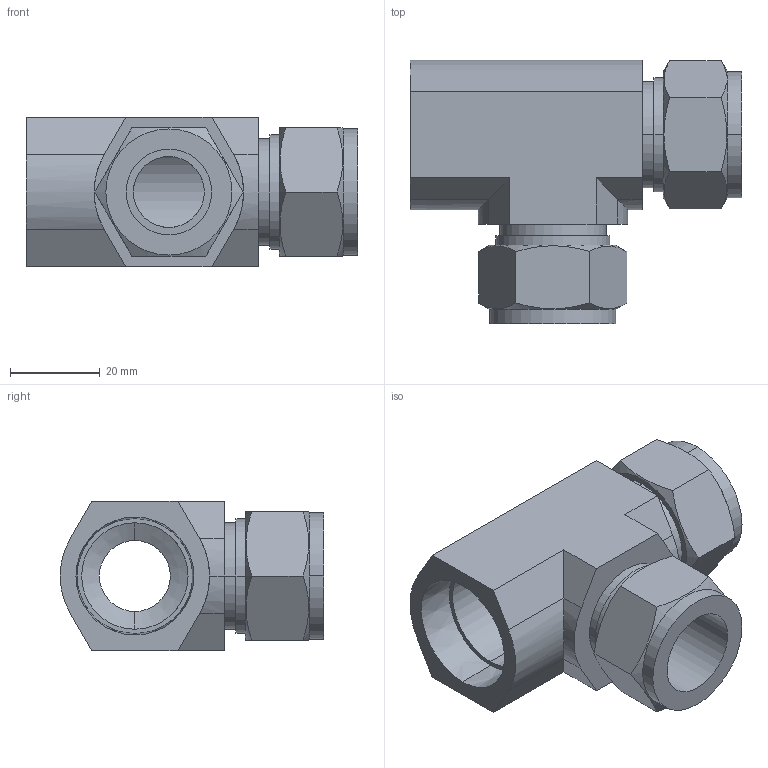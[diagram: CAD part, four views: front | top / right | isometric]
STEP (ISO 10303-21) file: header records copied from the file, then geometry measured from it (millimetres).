
FILE_DESCRIPTION (( 'STEP AP203' ), '1' );
FILE_NAME ('DTF 12-12 SS.STEP', '2009-09-08T09:44:52', ( ' ' ), ( '' ), 'SwSTEP 2.0', 'SolidWorks 2008', '' );
FILE_SCHEMA (( 'CONFIG_CONTROL_DESIGN' ));
Length unit declared in the file: millimetre
Products named in the file (1): DTF 12-12 SS
Bounding box: 73.9 x 58.75 x 33.3 mm (x, y, z)
Volume: 45817.1 mm3; surface area: 19345.1 mm2
Topology: 1 solids, 1 shells, 76 faces, 185 edges, 120 vertices
Faces by surface type: plane 36, cylinder 28, cone 12
Entity records: 2605 total; most frequent: CARTESIAN_POINT 751, ORIENTED_EDGE 370, DIRECTION 361, EDGE_CURVE 185, AXIS2_PLACEMENT_3D 136, VERTEX_POINT 120, EDGE_LOOP 89, VECTOR 89
